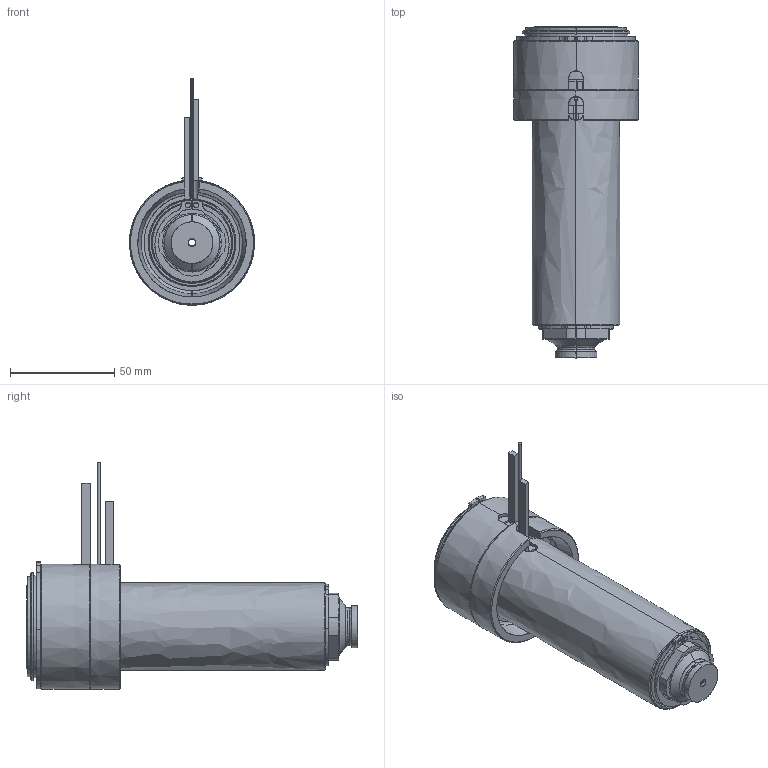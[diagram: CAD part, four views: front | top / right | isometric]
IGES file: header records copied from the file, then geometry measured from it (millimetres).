
Start section: SolidWorks IGES file using analytic representation for surfaces
Global section: file name: C:\Documents and Settings\ws-20\Desktop\TEM\UGER6605-M-A-0 [Øb-3.3 P-0 ØC-15].IGS; native system: SolidWorks 2012; preprocessor: SolidWorks 2012; author: ws-20; date: 120417.115946; units: millimetre
Bounding box: 60 x 159.25 x 108.65 mm (x, y, z)
Surface area: 87691.7 mm2 (no closed solid volume)
Topology: 0 solids, 0 shells, 165 faces, 3072 edges, 3072 vertices
Faces by surface type: revolution 98, bspline 67
